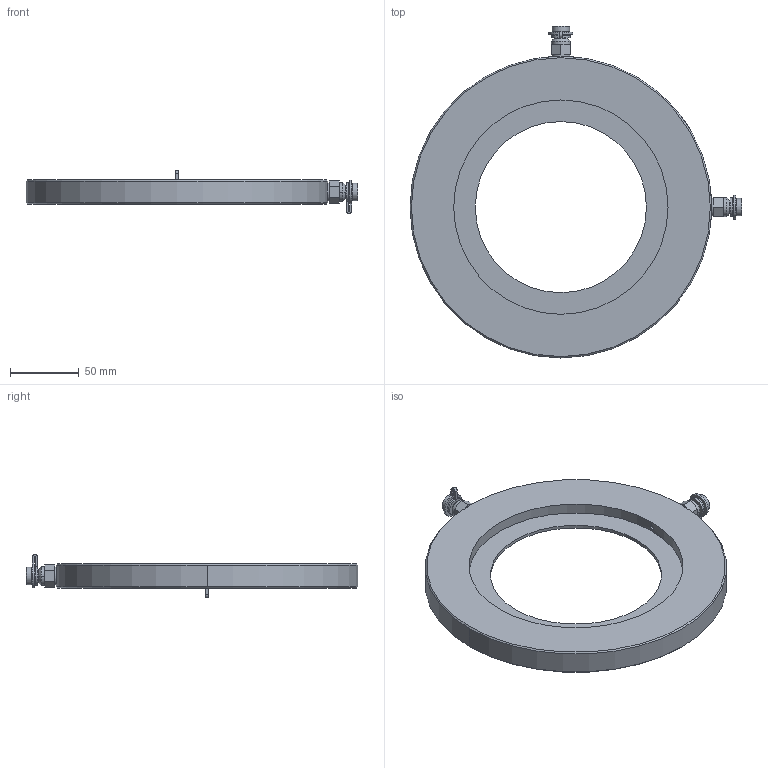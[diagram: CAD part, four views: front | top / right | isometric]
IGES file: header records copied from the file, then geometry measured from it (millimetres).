
Global section: file name: No Iges File Name specified; native system: AutoDesk Inventor R12.0; preprocessor: AutoDesk Inventor Iges Exporter R12.0; date: 20110112.162535; units: millimetre
Bounding box: 242.1 x 242.1 x 31.45 mm (x, y, z)
Volume: 360558.8 mm3; surface area: 75380.1 mm2
Topology: 1 solids, 1 shells, 131 faces, 314 edges, 202 vertices
Faces by surface type: plane 72, cylinder 27, cone 16, revolution 14, bspline 2
